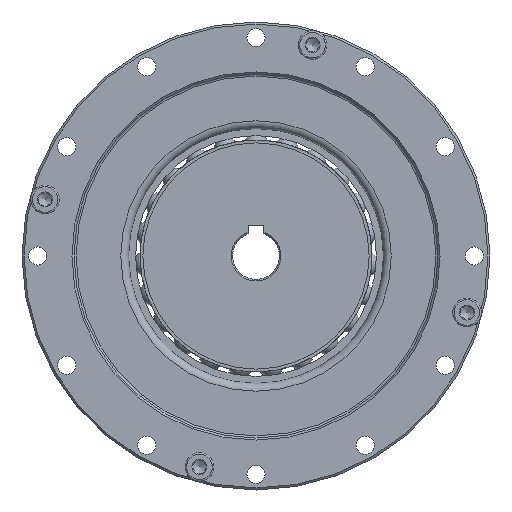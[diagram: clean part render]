
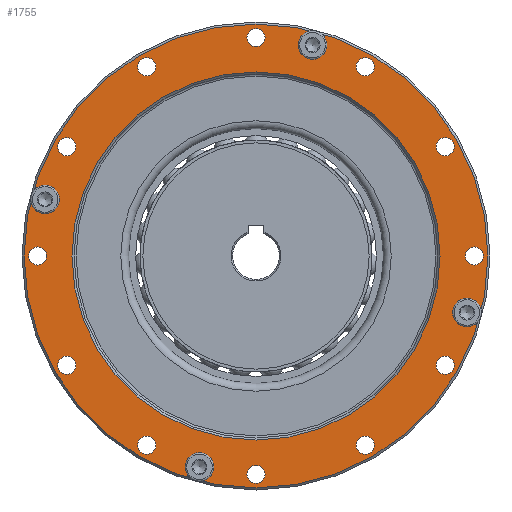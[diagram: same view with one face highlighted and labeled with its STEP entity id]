
A CAD part, left-side view. The second image highlights one B-rep face of the part: STEP entity #1755.
In plain terms, the highlighted planar face has unit normal (-1, 0, 0).
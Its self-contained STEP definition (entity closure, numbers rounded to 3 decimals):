
#1755=ADVANCED_FACE('',(#2538,#2539,#2540,#2541,#2542,#2543,#2544,#2545,
#2546,#2547,#2548,#2549,#2550,#2551,#2552,#2553,#2554,#2555),#2323,.T.);
#2323=PLANE('',#8959);
#2538=FACE_BOUND('',#3251,.T.);
#2539=FACE_BOUND('',#3252,.T.);
#2540=FACE_BOUND('',#3253,.T.);
#2541=FACE_BOUND('',#3254,.T.);
#2542=FACE_BOUND('',#3255,.T.);
#2543=FACE_BOUND('',#3256,.T.);
#2544=FACE_BOUND('',#3257,.T.);
#2545=FACE_BOUND('',#3258,.T.);
#2546=FACE_BOUND('',#3259,.T.);
#2547=FACE_BOUND('',#3260,.T.);
#2548=FACE_BOUND('',#3261,.T.);
#2549=FACE_BOUND('',#3262,.T.);
#2550=FACE_BOUND('',#3263,.T.);
#2551=FACE_BOUND('',#3264,.T.);
#2552=FACE_BOUND('',#3265,.T.);
#2553=FACE_BOUND('',#3266,.T.);
#2554=FACE_BOUND('',#3267,.T.);
#2555=FACE_BOUND('',#3268,.T.);
#3251=EDGE_LOOP('',(#4184));
#3252=EDGE_LOOP('',(#4185));
#3253=EDGE_LOOP('',(#4186));
#3254=EDGE_LOOP('',(#4187));
#3255=EDGE_LOOP('',(#4188));
#3256=EDGE_LOOP('',(#4189));
#3257=EDGE_LOOP('',(#4190));
#3258=EDGE_LOOP('',(#4191));
#3259=EDGE_LOOP('',(#4192));
#3260=EDGE_LOOP('',(#4193));
#3261=EDGE_LOOP('',(#4194));
#3262=EDGE_LOOP('',(#4195));
#3263=EDGE_LOOP('',(#4196));
#3264=EDGE_LOOP('',(#4197));
#3265=EDGE_LOOP('',(#4198));
#3266=EDGE_LOOP('',(#4199));
#3267=EDGE_LOOP('',(#4200));
#3268=EDGE_LOOP('',(#4201));
#4184=ORIENTED_EDGE('',*,*,#7038,.T.);
#4185=ORIENTED_EDGE('',*,*,#7039,.T.);
#4186=ORIENTED_EDGE('',*,*,#7032,.T.);
#4187=ORIENTED_EDGE('',*,*,#7031,.T.);
#4188=ORIENTED_EDGE('',*,*,#7030,.T.);
#4189=ORIENTED_EDGE('',*,*,#7029,.T.);
#4190=ORIENTED_EDGE('',*,*,#7028,.T.);
#4191=ORIENTED_EDGE('',*,*,#7027,.T.);
#4192=ORIENTED_EDGE('',*,*,#7026,.T.);
#4193=ORIENTED_EDGE('',*,*,#7025,.T.);
#4194=ORIENTED_EDGE('',*,*,#7024,.T.);
#4195=ORIENTED_EDGE('',*,*,#7023,.T.);
#4196=ORIENTED_EDGE('',*,*,#7022,.T.);
#4197=ORIENTED_EDGE('',*,*,#7021,.T.);
#4198=ORIENTED_EDGE('',*,*,#7020,.T.);
#4199=ORIENTED_EDGE('',*,*,#7019,.T.);
#4200=ORIENTED_EDGE('',*,*,#7018,.T.);
#4201=ORIENTED_EDGE('',*,*,#7017,.T.);
#6200=VERTEX_POINT('',#12536);
#6201=VERTEX_POINT('',#12539);
#6202=VERTEX_POINT('',#12542);
#6203=VERTEX_POINT('',#12545);
#6204=VERTEX_POINT('',#12548);
#6205=VERTEX_POINT('',#12551);
#6206=VERTEX_POINT('',#12554);
#6207=VERTEX_POINT('',#12557);
#6208=VERTEX_POINT('',#12560);
#6209=VERTEX_POINT('',#12563);
#6210=VERTEX_POINT('',#12566);
#6211=VERTEX_POINT('',#12569);
#6212=VERTEX_POINT('',#12572);
#6213=VERTEX_POINT('',#12575);
#6214=VERTEX_POINT('',#12578);
#6215=VERTEX_POINT('',#12581);
#6221=VERTEX_POINT('',#12597);
#6222=VERTEX_POINT('',#12599);
#7017=EDGE_CURVE('',#6200,#6200,#8164,.T.);
#7018=EDGE_CURVE('',#6201,#6201,#8165,.T.);
#7019=EDGE_CURVE('',#6202,#6202,#8166,.T.);
#7020=EDGE_CURVE('',#6203,#6203,#8167,.T.);
#7021=EDGE_CURVE('',#6204,#6204,#8168,.T.);
#7022=EDGE_CURVE('',#6205,#6205,#8169,.T.);
#7023=EDGE_CURVE('',#6206,#6206,#8170,.T.);
#7024=EDGE_CURVE('',#6207,#6207,#8171,.T.);
#7025=EDGE_CURVE('',#6208,#6208,#8172,.T.);
#7026=EDGE_CURVE('',#6209,#6209,#8173,.T.);
#7027=EDGE_CURVE('',#6210,#6210,#8174,.T.);
#7028=EDGE_CURVE('',#6211,#6211,#8175,.T.);
#7029=EDGE_CURVE('',#6212,#6212,#8176,.T.);
#7030=EDGE_CURVE('',#6213,#6213,#8177,.T.);
#7031=EDGE_CURVE('',#6214,#6214,#8178,.T.);
#7032=EDGE_CURVE('',#6215,#6215,#8179,.T.);
#7038=EDGE_CURVE('',#6221,#6221,#8185,.T.);
#7039=EDGE_CURVE('',#6222,#6222,#8186,.T.);
#8164=CIRCLE('',#8917,1.75);
#8165=CIRCLE('',#8919,1.75);
#8166=CIRCLE('',#8921,1.75);
#8167=CIRCLE('',#8923,1.75);
#8168=CIRCLE('',#8925,1.75);
#8169=CIRCLE('',#8927,1.75);
#8170=CIRCLE('',#8929,1.75);
#8171=CIRCLE('',#8931,1.75);
#8172=CIRCLE('',#8933,1.75);
#8173=CIRCLE('',#8935,1.75);
#8174=CIRCLE('',#8937,1.75);
#8175=CIRCLE('',#8939,1.75);
#8176=CIRCLE('',#8941,1.75);
#8177=CIRCLE('',#8943,1.75);
#8178=CIRCLE('',#8945,1.75);
#8179=CIRCLE('',#8947,1.75);
#8185=CIRCLE('',#8957,35.4);
#8186=CIRCLE('',#8958,44.6);
#8917=AXIS2_PLACEMENT_3D('',#12535,#10129,#10130);
#8919=AXIS2_PLACEMENT_3D('',#12538,#10133,#10134);
#8921=AXIS2_PLACEMENT_3D('',#12541,#10137,#10138);
#8923=AXIS2_PLACEMENT_3D('',#12544,#10141,#10142);
#8925=AXIS2_PLACEMENT_3D('',#12547,#10145,#10146);
#8927=AXIS2_PLACEMENT_3D('',#12550,#10149,#10150);
#8929=AXIS2_PLACEMENT_3D('',#12553,#10153,#10154);
#8931=AXIS2_PLACEMENT_3D('',#12556,#10157,#10158);
#8933=AXIS2_PLACEMENT_3D('',#12559,#10161,#10162);
#8935=AXIS2_PLACEMENT_3D('',#12562,#10165,#10166);
#8937=AXIS2_PLACEMENT_3D('',#12565,#10169,#10170);
#8939=AXIS2_PLACEMENT_3D('',#12568,#10173,#10174);
#8941=AXIS2_PLACEMENT_3D('',#12571,#10177,#10178);
#8943=AXIS2_PLACEMENT_3D('',#12574,#10181,#10182);
#8945=AXIS2_PLACEMENT_3D('',#12577,#10185,#10186);
#8947=AXIS2_PLACEMENT_3D('',#12580,#10189,#10190);
#8957=AXIS2_PLACEMENT_3D('',#12596,#10209,#10210);
#8958=AXIS2_PLACEMENT_3D('',#12598,#10211,#10212);
#8959=AXIS2_PLACEMENT_3D('',#12600,#10213,#10214);
#10129=DIRECTION('',(1.,0.,0.));
#10130=DIRECTION('',(0.,-0.5,-0.866));
#10133=DIRECTION('',(1.,0.,0.));
#10134=DIRECTION('',(0.,-0.5,-0.866));
#10137=DIRECTION('',(1.,0.,0.));
#10138=DIRECTION('',(0.,-0.5,-0.866));
#10141=DIRECTION('',(1.,0.,0.));
#10142=DIRECTION('',(0.,-0.5,-0.866));
#10145=DIRECTION('',(1.,0.,0.));
#10146=DIRECTION('',(0.,-0.5,-0.866));
#10149=DIRECTION('',(1.,0.,0.));
#10150=DIRECTION('',(0.,-0.5,-0.866));
#10153=DIRECTION('',(1.,0.,0.));
#10154=DIRECTION('',(0.,-0.5,-0.866));
#10157=DIRECTION('',(1.,0.,0.));
#10158=DIRECTION('',(0.,-0.5,-0.866));
#10161=DIRECTION('',(1.,0.,0.));
#10162=DIRECTION('',(0.,-0.5,-0.866));
#10165=DIRECTION('',(1.,0.,0.));
#10166=DIRECTION('',(0.,-0.5,-0.866));
#10169=DIRECTION('',(1.,0.,0.));
#10170=DIRECTION('',(0.,-0.5,-0.866));
#10173=DIRECTION('',(1.,0.,0.));
#10174=DIRECTION('',(0.,-0.5,-0.866));
#10177=DIRECTION('',(1.,0.,0.));
#10178=DIRECTION('',(0.,-0.5,-0.866));
#10181=DIRECTION('',(1.,0.,0.));
#10182=DIRECTION('',(0.,-0.5,-0.866));
#10185=DIRECTION('',(1.,0.,0.));
#10186=DIRECTION('',(0.,-0.5,-0.866));
#10189=DIRECTION('',(1.,0.,0.));
#10190=DIRECTION('',(0.,-0.5,-0.866));
#10209=DIRECTION('',(1.,0.,0.));
#10210=DIRECTION('',(0.,0.5,0.866));
#10211=DIRECTION('',(-1.,0.,0.));
#10212=DIRECTION('',(0.,0.5,0.866));
#10213=DIRECTION('',(-1.,0.,0.));
#10214=DIRECTION('',(0.,0.5,0.866));
#12535=CARTESIAN_POINT('',(-29.,21.,36.373));
#12536=CARTESIAN_POINT('',(-29.,20.125,34.858));
#12538=CARTESIAN_POINT('',(-29.,0.,42.));
#12539=CARTESIAN_POINT('',(-29.,-0.875,40.484));
#12541=CARTESIAN_POINT('',(-29.,-21.,36.373));
#12542=CARTESIAN_POINT('',(-29.,-21.875,34.858));
#12544=CARTESIAN_POINT('',(-29.,-36.373,21.));
#12545=CARTESIAN_POINT('',(-29.,-37.248,19.484));
#12547=CARTESIAN_POINT('',(-29.,-42.,0.));
#12548=CARTESIAN_POINT('',(-29.,-42.875,-1.516));
#12550=CARTESIAN_POINT('',(-29.,-36.373,-21.));
#12551=CARTESIAN_POINT('',(-29.,-37.248,-22.516));
#12553=CARTESIAN_POINT('',(-29.,-21.,-36.373));
#12554=CARTESIAN_POINT('',(-29.,-21.875,-37.889));
#12556=CARTESIAN_POINT('',(-29.,0.,-42.));
#12557=CARTESIAN_POINT('',(-29.,-0.875,-43.516));
#12559=CARTESIAN_POINT('',(-29.,21.,-36.373));
#12560=CARTESIAN_POINT('',(-29.,20.125,-37.889));
#12562=CARTESIAN_POINT('',(-29.,36.373,-21.));
#12563=CARTESIAN_POINT('',(-29.,35.498,-22.516));
#12565=CARTESIAN_POINT('',(-29.,42.,0.));
#12566=CARTESIAN_POINT('',(-29.,41.125,-1.516));
#12568=CARTESIAN_POINT('',(-29.,36.373,21.));
#12569=CARTESIAN_POINT('',(-29.,35.498,19.484));
#12571=CARTESIAN_POINT('',(-29.,40.569,10.87));
#12572=CARTESIAN_POINT('',(-29.,39.694,9.355));
#12574=CARTESIAN_POINT('',(-29.,-10.87,40.569));
#12575=CARTESIAN_POINT('',(-29.,-11.745,39.053));
#12577=CARTESIAN_POINT('',(-29.,-40.569,-10.87));
#12578=CARTESIAN_POINT('',(-29.,-41.444,-12.386));
#12580=CARTESIAN_POINT('',(-29.,10.87,-40.569));
#12581=CARTESIAN_POINT('',(-29.,9.995,-42.084));
#12596=CARTESIAN_POINT('',(-29.,0.,0.));
#12597=CARTESIAN_POINT('',(-29.,17.7,30.657));
#12598=CARTESIAN_POINT('',(-29.,0.,0.));
#12599=CARTESIAN_POINT('',(-29.,22.3,38.625));
#12600=CARTESIAN_POINT('',(-29.,30.311,-17.5));
